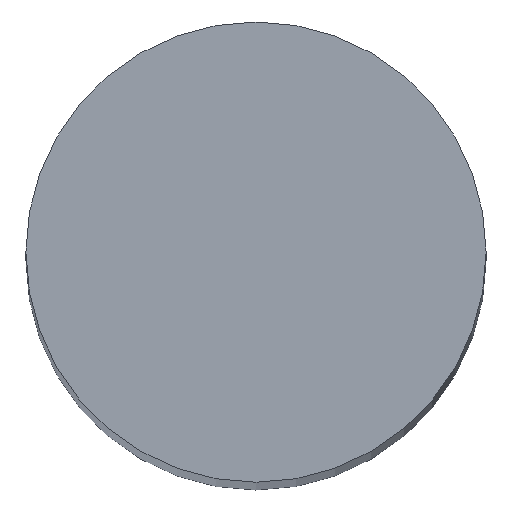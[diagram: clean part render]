
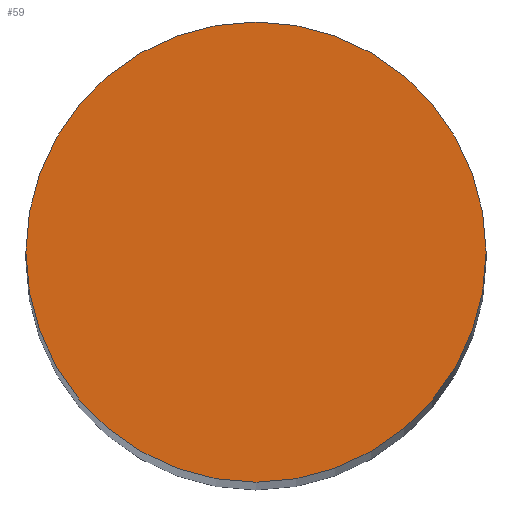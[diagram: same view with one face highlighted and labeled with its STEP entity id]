
A CAD part, top view. The second image highlights one B-rep face of the part: STEP entity #59.
In plain terms, the highlighted planar face has unit normal (0, 0, 1).
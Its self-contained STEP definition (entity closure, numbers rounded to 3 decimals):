
#24 = VERTEX_POINT('',#25);
#25 = CARTESIAN_POINT('',(4.,0.,77.25));
#31 = EDGE_CURVE('',#24,#24,#32,.T.);
#32 = CIRCLE('',#33,4.);
#33 = AXIS2_PLACEMENT_3D('',#34,#35,#36);
#34 = CARTESIAN_POINT('',(0.,0.,77.25));
#35 = DIRECTION('',(0.,0.,1.));
#36 = DIRECTION('',(1.,0.,0.));
#59 = ADVANCED_FACE('',(#60),#63,.T.);
#60 = FACE_BOUND('',#61,.T.);
#61 = EDGE_LOOP('',(#62));
#62 = ORIENTED_EDGE('',*,*,#31,.T.);
#63 = PLANE('',#64);
#64 = AXIS2_PLACEMENT_3D('',#65,#66,#67);
#65 = CARTESIAN_POINT('',(0.,0.,77.25)
  );
#66 = DIRECTION('',(0.,0.,1.));
#67 = DIRECTION('',(1.,0.,0.));
